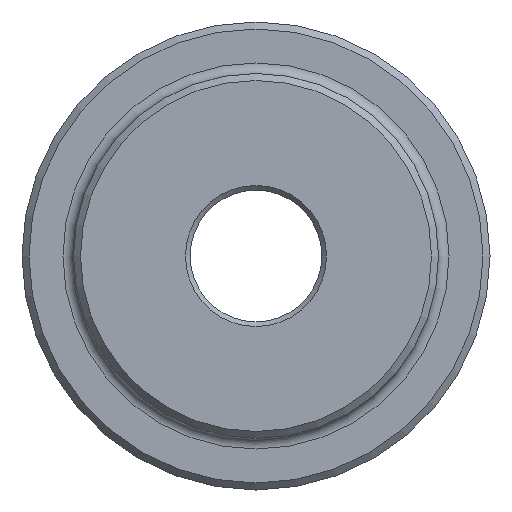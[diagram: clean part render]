
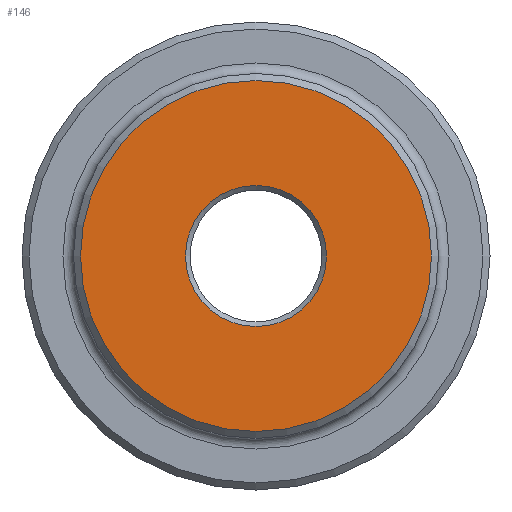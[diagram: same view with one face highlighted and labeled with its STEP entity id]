
A CAD part, left-side view. The second image highlights one B-rep face of the part: STEP entity #146.
In plain terms, the highlighted planar face has unit normal (-1, 0, 0).
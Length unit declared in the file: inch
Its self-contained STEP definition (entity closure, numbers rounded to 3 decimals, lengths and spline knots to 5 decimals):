
#146 = ADVANCED_FACE ( 'NONE', ( #1450, #1424 ), #1819, .F. ) ;
#224 = CARTESIAN_POINT ( 'NONE',  ( 0., 0., 0. ) ) ;
#260 = EDGE_CURVE ( 'NONE', #627, #627, #1284, .T. ) ;
#627 = VERTEX_POINT ( 'NONE', #1668 ) ;
#644 = CIRCLE ( 'NONE', #1452, 1.5 ) ;
#654 = EDGE_CURVE ( 'NONE', #1312, #1312, #644, .T. ) ;
#674 = AXIS2_PLACEMENT_3D ( 'NONE', #1627, #1053, #766 ) ;
#673 = CARTESIAN_POINT ( 'NONE',  ( 0., 0., 0. ) ) ;
#740 = DIRECTION ( 'NONE',  ( 0., 0., -1. ) ) ;
#753 = EDGE_LOOP ( 'NONE', ( #1286 ) ) ;
#766 = DIRECTION ( 'NONE',  ( 0., 0., -1. ) ) ;
#1053 = DIRECTION ( 'NONE',  ( 1., 0., 0. ) ) ;
#1157 = EDGE_LOOP ( 'NONE', ( #1261 ) ) ;
#1171 = DIRECTION ( 'NONE',  ( 1., 0., 0. ) ) ;
#1248 = DIRECTION ( 'NONE',  ( 0., 0., -1. ) ) ;
#1261 = ORIENTED_EDGE ( 'NONE', *, *, #654, .T. ) ;
#1284 = CIRCLE ( 'NONE', #674, 0.60275 ) ;
#1286 = ORIENTED_EDGE ( 'NONE', *, *, #260, .T. ) ;
#1312 = VERTEX_POINT ( 'NONE', #1404 ) ;
#1404 = CARTESIAN_POINT ( 'NONE',  ( 0., 0., -1.5 ) ) ;
#1424 = FACE_OUTER_BOUND ( 'NONE', #1157, .T. ) ;
#1450 = FACE_BOUND ( 'NONE', #753, .T. ) ;
#1452 = AXIS2_PLACEMENT_3D ( 'NONE', #673, #1823, #740 ) ;
#1537 = AXIS2_PLACEMENT_3D ( 'NONE', #224, #1171, #1248 ) ;
#1627 = CARTESIAN_POINT ( 'NONE',  ( 0., 0., 0. ) ) ;
#1668 = CARTESIAN_POINT ( 'NONE',  ( 0., 0., -0.60275 ) ) ;
#1819 = PLANE ( 'NONE',  #1537 ) ;
#1823 = DIRECTION ( 'NONE',  ( -1., 0., 0. ) ) ;
